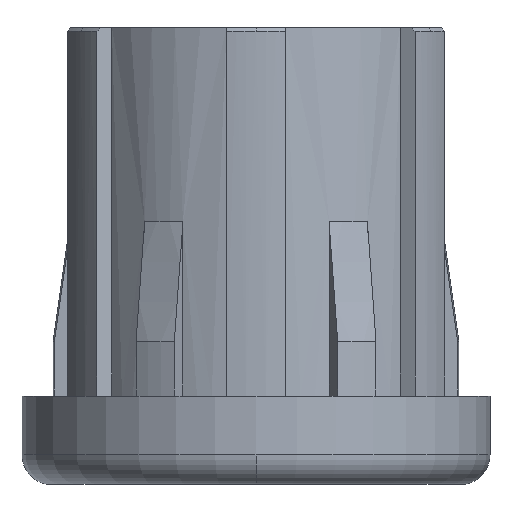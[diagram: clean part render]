
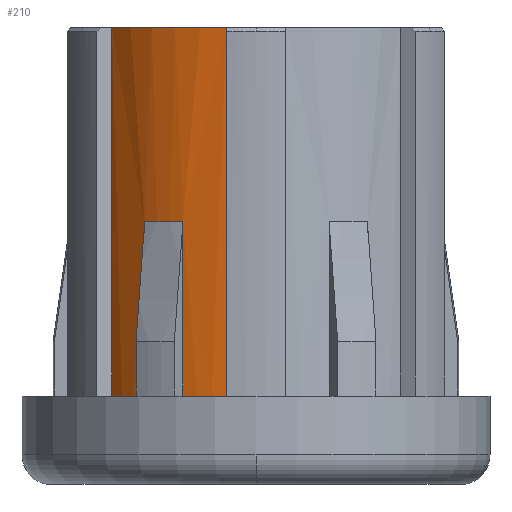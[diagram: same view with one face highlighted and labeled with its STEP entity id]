
A CAD part, front view. The second image highlights one B-rep face of the part: STEP entity #210.
In plain terms, the highlighted cylindrical face has radius 12.6 mm (diameter 25.2 mm), a partial arc.
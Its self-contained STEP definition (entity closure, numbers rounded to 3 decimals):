
#36 = VECTOR ( 'NONE', #2330, 1000. ) ;
#70 = CARTESIAN_POINT ( 'NONE',  ( -9.774, -7.952, 30.25 ) ) ;
#73 = AXIS2_PLACEMENT_3D ( 'NONE', #307, #835, #2745 ) ;
#104 = CARTESIAN_POINT ( 'NONE',  ( 0., 0., 5.25 ) ) ;
#105 = ORIENTED_EDGE ( 'NONE', *, *, #1894, .T. ) ;
#210 = ADVANCED_FACE ( 'NONE', ( #537 ), #2900, .T. ) ;
#231 = VECTOR ( 'NONE', #3028, 1000. ) ;
#300 = CARTESIAN_POINT ( 'NONE',  ( -4.956, -11.584, 30.25 ) ) ;
#307 = CARTESIAN_POINT ( 'NONE',  ( 0., 0., 17.086 ) ) ;
#316 = DIRECTION ( 'NONE',  ( 0., 0., 1. ) ) ;
#360 = EDGE_CURVE ( 'NONE', #1511, #625, #2143, .T. ) ;
#429 = EDGE_LOOP ( 'NONE', ( #1908, #105, #435, #540, #2625, #2320, #1232, #1488 ) ) ;
#435 = ORIENTED_EDGE ( 'NONE', *, *, #649, .T. ) ;
#537 = FACE_OUTER_BOUND ( 'NONE', #429, .T. ) ;
#540 = ORIENTED_EDGE ( 'NONE', *, *, #2171, .F. ) ;
#579 = EDGE_CURVE ( 'NONE', #3326, #1323, #1036, .T. ) ;
#625 = VERTEX_POINT ( 'NONE', #3270 ) ;
#649 = EDGE_CURVE ( 'NONE', #2133, #2670, #1745, .T. ) ;
#766 = LINE ( 'NONE', #1080, #2034 ) ;
#805 = EDGE_CURVE ( 'NONE', #3326, #1416, #766, .T. ) ;
#818 = CARTESIAN_POINT ( 'NONE',  ( 0., 0., 5.25 ) ) ;
#835 = DIRECTION ( 'NONE',  ( 0., 0., -1. ) ) ;
#1036 = CIRCLE ( 'NONE', #1700, 12.6 ) ;
#1080 = CARTESIAN_POINT ( 'NONE',  ( -9.774, -7.952, 30.25 ) ) ;
#1087 = CARTESIAN_POINT ( 'NONE',  ( 0., 0., 30.25 ) ) ;
#1161 = AXIS2_PLACEMENT_3D ( 'NONE', #2884, #1273, #2898 ) ;
#1232 = ORIENTED_EDGE ( 'NONE', *, *, #1710, .T. ) ;
#1273 = DIRECTION ( 'NONE',  ( 0., 0., 1. ) ) ;
#1323 = VERTEX_POINT ( 'NONE', #2765 ) ;
#1348 = DIRECTION ( 'NONE',  ( 0., 0., -1. ) ) ;
#1416 = VERTEX_POINT ( 'NONE', #2207 ) ;
#1488 = ORIENTED_EDGE ( 'NONE', *, *, #360, .F. ) ;
#1511 = VERTEX_POINT ( 'NONE', #2637 ) ;
#1636 = CARTESIAN_POINT ( 'NONE',  ( -4.956, -11.584, 5.25 ) ) ;
#1654 = LINE ( 'NONE', #300, #231 ) ;
#1673 = CARTESIAN_POINT ( 'NONE',  ( -4.956, -11.584, 17.086 ) ) ;
#1686 = DIRECTION ( 'NONE',  ( 0., 0., 1. ) ) ;
#1700 = AXIS2_PLACEMENT_3D ( 'NONE', #1087, #2208, #2457 ) ;
#1710 = EDGE_CURVE ( 'NONE', #1416, #625, #2553, .T. ) ;
#1745 = CIRCLE ( 'NONE', #2794, 12.6 ) ;
#1858 = LINE ( 'NONE', #2174, #3022 ) ;
#1894 = EDGE_CURVE ( 'NONE', #1973, #2133, #1654, .T. ) ;
#1908 = ORIENTED_EDGE ( 'NONE', *, *, #2218, .F. ) ;
#1973 = VERTEX_POINT ( 'NONE', #1673 ) ;
#2028 = CIRCLE ( 'NONE', #73, 12.6 ) ;
#2034 = VECTOR ( 'NONE', #1348, 1000. ) ;
#2133 = VERTEX_POINT ( 'NONE', #1636 ) ;
#2143 = LINE ( 'NONE', #2849, #36 ) ;
#2171 = EDGE_CURVE ( 'NONE', #1323, #2670, #1858, .T. ) ;
#2174 = CARTESIAN_POINT ( 'NONE',  ( -2., -12.44, 30.25 ) ) ;
#2207 = CARTESIAN_POINT ( 'NONE',  ( -9.774, -7.952, 5.25 ) ) ;
#2208 = DIRECTION ( 'NONE',  ( 0., 0., 1. ) ) ;
#2218 = EDGE_CURVE ( 'NONE', #1973, #1511, #2028, .T. ) ;
#2320 = ORIENTED_EDGE ( 'NONE', *, *, #805, .T. ) ;
#2330 = DIRECTION ( 'NONE',  ( 0., 0., -1. ) ) ;
#2457 = DIRECTION ( 'NONE',  ( 1., 0., 0. ) ) ;
#2553 = CIRCLE ( 'NONE', #2796, 12.6 ) ;
#2625 = ORIENTED_EDGE ( 'NONE', *, *, #579, .F. ) ;
#2637 = CARTESIAN_POINT ( 'NONE',  ( -7.554, -10.084, 17.086 ) ) ;
#2670 = VERTEX_POINT ( 'NONE', #2958 ) ;
#2745 = DIRECTION ( 'NONE',  ( -1., 0., 0. ) ) ;
#2765 = CARTESIAN_POINT ( 'NONE',  ( -2., -12.44, 30.25 ) ) ;
#2786 = DIRECTION ( 'NONE',  ( 1., 0., 0. ) ) ;
#2794 = AXIS2_PLACEMENT_3D ( 'NONE', #818, #316, #3017 ) ;
#2796 = AXIS2_PLACEMENT_3D ( 'NONE', #104, #1686, #2786 ) ;
#2849 = CARTESIAN_POINT ( 'NONE',  ( -7.554, -10.084, 30.25 ) ) ;
#2884 = CARTESIAN_POINT ( 'NONE',  ( 0., 0., 30.25 ) ) ;
#2898 = DIRECTION ( 'NONE',  ( -1., 0., 0. ) ) ;
#2900 = CYLINDRICAL_SURFACE ( 'NONE', #1161, 12.6 ) ;
#2945 = DIRECTION ( 'NONE',  ( 0., 0., -1. ) ) ;
#2958 = CARTESIAN_POINT ( 'NONE',  ( -2., -12.44, 5.25 ) ) ;
#3017 = DIRECTION ( 'NONE',  ( 1., 0., 0. ) ) ;
#3022 = VECTOR ( 'NONE', #2945, 1000. ) ;
#3028 = DIRECTION ( 'NONE',  ( 0., 0., -1. ) ) ;
#3270 = CARTESIAN_POINT ( 'NONE',  ( -7.554, -10.084, 5.25 ) ) ;
#3326 = VERTEX_POINT ( 'NONE', #70 ) ;
